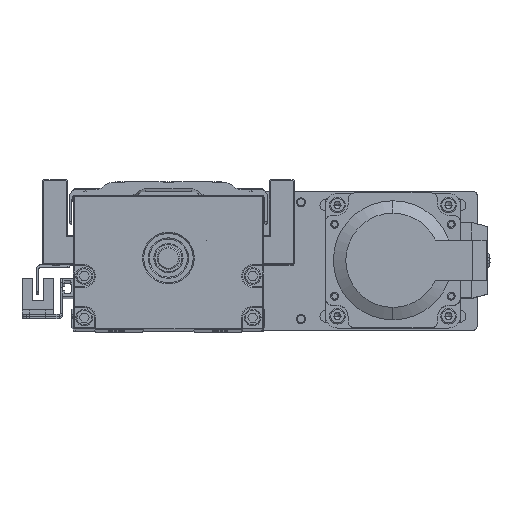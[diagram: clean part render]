
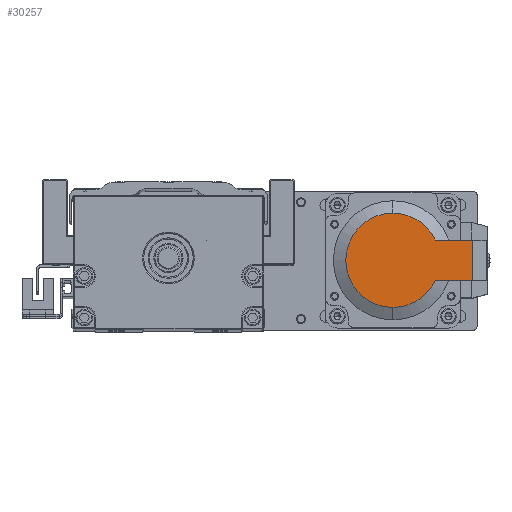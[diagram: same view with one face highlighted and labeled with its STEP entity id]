
A CAD part, top view. The second image highlights one B-rep face of the part: STEP entity #30257.
In plain terms, the highlighted planar face has unit normal (0, 0, 1).
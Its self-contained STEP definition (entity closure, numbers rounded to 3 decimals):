
#1401 = DIRECTION ( 'NONE',  ( 0., 1., 0. ) ) ;
#1523 = DIRECTION ( 'NONE',  ( 0., 1., 0. ) ) ;
#6691 = CARTESIAN_POINT ( 'NONE',  ( 85.777, 33.277, 500.168 ) ) ;
#13556 = ORIENTED_EDGE ( 'NONE', *, *, #53729, .F. ) ;
#15824 = CARTESIAN_POINT ( 'NONE',  ( 121.36, 21.277, 500.168 ) ) ;
#18002 = CARTESIAN_POINT ( 'NONE',  ( 85.777, 33.277, 500.168 ) ) ;
#22048 = ORIENTED_EDGE ( 'NONE', *, *, #97028, .T. ) ;
#22126 = VECTOR ( 'NONE', #23497, 1000. ) ;
#23497 = DIRECTION ( 'NONE',  ( 0., -1., 0. ) ) ;
#25210 = ORIENTED_EDGE ( 'NONE', *, *, #33946, .T. ) ;
#29417 = DIRECTION ( 'NONE',  ( 0., 1., 0. ) ) ;
#30257 = ADVANCED_FACE ( 'NONE', ( #63655 ), #87479, .T. ) ;
#33946 = EDGE_CURVE ( 'NONE', #35468, #100252, #103191, .T. ) ;
#35468 = VERTEX_POINT ( 'NONE', #6691 ) ;
#48623 = LINE ( 'NONE', #129907, #137684 ) ;
#50347 = VERTEX_POINT ( 'NONE', #90290 ) ;
#50599 = CARTESIAN_POINT ( 'NONE',  ( 85.777, -8.723, 500.168 ) ) ;
#53729 = EDGE_CURVE ( 'NONE', #50347, #79414, #72294, .T. ) ;
#57613 = CARTESIAN_POINT ( 'NONE',  ( 85.777, 12.277, 500.168 ) ) ;
#57844 = CARTESIAN_POINT ( 'NONE',  ( 121.36, 3.277, 500.168 ) ) ;
#59395 = VECTOR ( 'NONE', #102323, 1000. ) ;
#61361 = CARTESIAN_POINT ( 'NONE',  ( 104.751, 3.277, 500.168 ) ) ;
#63483 = EDGE_CURVE ( 'NONE', #100252, #141246, #71548, .T. ) ;
#63655 = FACE_OUTER_BOUND ( 'NONE', #113377, .T. ) ;
#67797 = ORIENTED_EDGE ( 'NONE', *, *, #79134, .T. ) ;
#71548 = CIRCLE ( 'NONE', #79049, 21. ) ;
#72294 = LINE ( 'NONE', #139169, #59395 ) ;
#74086 = ORIENTED_EDGE ( 'NONE', *, *, #63483, .T. ) ;
#78144 = AXIS2_PLACEMENT_3D ( 'NONE', #130529, #117536, #142554 ) ;
#79049 = AXIS2_PLACEMENT_3D ( 'NONE', #84849, #131557, #1401 ) ;
#79134 = EDGE_CURVE ( 'NONE', #141246, #143761, #48623, .T. ) ;
#79414 = VERTEX_POINT ( 'NONE', #15824 ) ;
#84849 = CARTESIAN_POINT ( 'NONE',  ( 85.777, 12.277, 500.168 ) ) ;
#87479 = PLANE ( 'NONE',  #122218 ) ;
#90290 = CARTESIAN_POINT ( 'NONE',  ( 104.751, 21.277, 500.168 ) ) ;
#90811 = LINE ( 'NONE', #105913, #22126 ) ;
#95859 = DIRECTION ( 'NONE',  ( 0., 0., 1. ) ) ;
#97028 = EDGE_CURVE ( 'NONE', #50347, #35468, #113549, .T. ) ;
#100252 = VERTEX_POINT ( 'NONE', #50599 ) ;
#102323 = DIRECTION ( 'NONE',  ( 1., 0., 0. ) ) ;
#103191 = CIRCLE ( 'NONE', #78144, 21. ) ;
#105913 = CARTESIAN_POINT ( 'NONE',  ( 121.36, 21.277, 500.168 ) ) ;
#110734 = EDGE_CURVE ( 'NONE', #79414, #143761, #90811, .T. ) ;
#111320 = DIRECTION ( 'NONE',  ( 0., 0., 1. ) ) ;
#113377 = EDGE_LOOP ( 'NONE', ( #13556, #22048, #25210, #74086, #67797, #143530 ) ) ;
#113549 = CIRCLE ( 'NONE', #141294, 21. ) ;
#117536 = DIRECTION ( 'NONE',  ( 0., 0., 1. ) ) ;
#122218 = AXIS2_PLACEMENT_3D ( 'NONE', #18002, #111320, #29417 ) ;
#129907 = CARTESIAN_POINT ( 'NONE',  ( 121.36, 3.277, 500.168 ) ) ;
#130529 = CARTESIAN_POINT ( 'NONE',  ( 85.777, 12.277, 500.168 ) ) ;
#131557 = DIRECTION ( 'NONE',  ( 0., 0., 1. ) ) ;
#137684 = VECTOR ( 'NONE', #152870, 1000. ) ;
#139169 = CARTESIAN_POINT ( 'NONE',  ( 121.36, 21.277, 500.168 ) ) ;
#141246 = VERTEX_POINT ( 'NONE', #61361 ) ;
#141294 = AXIS2_PLACEMENT_3D ( 'NONE', #57613, #95859, #1523 ) ;
#142554 = DIRECTION ( 'NONE',  ( 0., 1., 0. ) ) ;
#143530 = ORIENTED_EDGE ( 'NONE', *, *, #110734, .F. ) ;
#143761 = VERTEX_POINT ( 'NONE', #57844 ) ;
#152870 = DIRECTION ( 'NONE',  ( 1., 0., 0. ) ) ;
